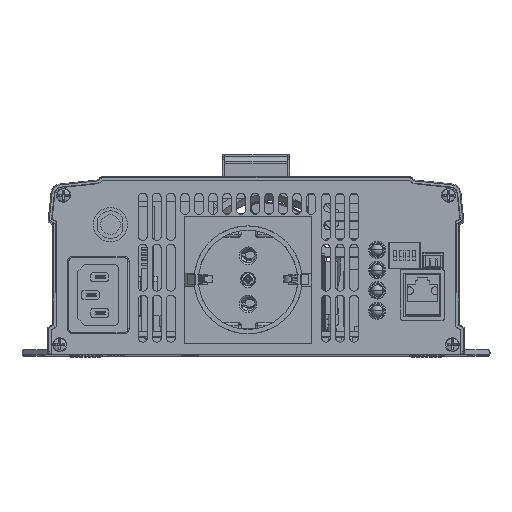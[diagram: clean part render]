
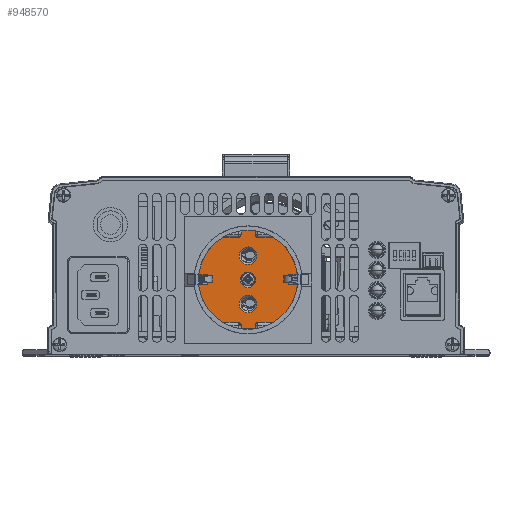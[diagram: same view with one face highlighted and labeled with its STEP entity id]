
A CAD part, top view. The second image highlights one B-rep face of the part: STEP entity #948570.
In plain terms, the highlighted planar face has unit normal (0, 0, 1).
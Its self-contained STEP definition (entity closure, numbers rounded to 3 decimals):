
#945830=CARTESIAN_POINT('',(15.95,1.975,-13.1));
#945840=VERTEX_POINT('',#945830);
#945920=CARTESIAN_POINT('',(15.95,-1.975,-13.1));
#945930=VERTEX_POINT('',#945920);
#945960=CARTESIAN_POINT('',(15.95,1.975,-13.1));
#945970=DIRECTION('',(0.,-1.,0.));
#945980=VECTOR('',#945970,1.);
#945990=LINE('',#945960,#945980);
#946000=EDGE_CURVE('',#945840,#945930,#945990,.T.);
#946120=CARTESIAN_POINT('',(0.,0.,-13.1));
#946130=DIRECTION('',(0.,0.,1.));
#946140=DIRECTION('',(1.,0.,0.));
#946150=AXIS2_PLACEMENT_3D('',#946120,#946130,#946140);
#946160=PLANE('',#946150);
#946170=CARTESIAN_POINT('',(-3.75,-16.75,-13.1));
#946180=DIRECTION('',(-1.,0.,0.));
#946190=VECTOR('',#946180,1.);
#946200=LINE('',#946170,#946190);
#946210=CARTESIAN_POINT('',(-3.75,-16.75,-13.1));
#946220=VERTEX_POINT('',#946210);
#946230=CARTESIAN_POINT('',(-9.984,-16.75,-13.1));
#946240=VERTEX_POINT('',#946230);
#946250=EDGE_CURVE('',#946220,#946240,#946200,.T.);
#946260=ORIENTED_EDGE('',*,*,#946250,.F.);
#946270=CARTESIAN_POINT('',(0.,0.,-13.1));
#946280=DIRECTION('',(0.,0.,1.));
#946290=DIRECTION('',(-0.995,-0.101,0.));
#946300=AXIS2_PLACEMENT_3D('',#946270,#946280,#946290);
#946310=CIRCLE('',#946300,19.5);
#946320=CARTESIAN_POINT('',(-19.4,-1.975,-13.1));
#946330=VERTEX_POINT('',#946320);
#946340=EDGE_CURVE('',#946330,#946240,#946310,.T.);
#946350=ORIENTED_EDGE('',*,*,#946340,.T.);
#946360=CARTESIAN_POINT('',(-19.4,-1.975,-13.1));
#946370=DIRECTION('',(1.,0.,0.));
#946380=VECTOR('',#946370,1.);
#946390=LINE('',#946360,#946380);
#946400=CARTESIAN_POINT('',(-15.95,-1.975,-13.1));
#946410=VERTEX_POINT('',#946400);
#946420=EDGE_CURVE('',#946330,#946410,#946390,.T.);
#946430=ORIENTED_EDGE('',*,*,#946420,.F.);
#946440=CARTESIAN_POINT('',(-15.95,-1.975,-13.1));
#946450=DIRECTION('',(0.,1.,0.));
#946460=VECTOR('',#946450,1.);
#946470=LINE('',#946440,#946460);
#946480=CARTESIAN_POINT('',(-15.95,1.975,-13.1));
#946490=VERTEX_POINT('',#946480);
#946500=EDGE_CURVE('',#946410,#946490,#946470,.T.);
#946510=ORIENTED_EDGE('',*,*,#946500,.F.);
#946520=CARTESIAN_POINT('',(-15.95,1.975,-13.1));
#946530=DIRECTION('',(-1.,0.,0.));
#946540=VECTOR('',#946530,1.);
#946550=LINE('',#946520,#946540);
#946560=CARTESIAN_POINT('',(-19.4,1.975,-13.1));
#946570=VERTEX_POINT('',#946560);
#946580=EDGE_CURVE('',#946490,#946570,#946550,.T.);
#946590=ORIENTED_EDGE('',*,*,#946580,.F.);
#946600=CARTESIAN_POINT('',(0.,0.,-13.1));
#946610=DIRECTION('',(0.,0.,1.));
#946620=DIRECTION('',(-0.512,0.859,0.));
#946630=AXIS2_PLACEMENT_3D('',#946600,#946610,#946620);
#946640=CIRCLE('',#946630,19.5);
#946650=CARTESIAN_POINT('',(-9.984,16.75,-13.1));
#946660=VERTEX_POINT('',#946650);
#946670=EDGE_CURVE('',#946660,#946570,#946640,.T.);
#946680=ORIENTED_EDGE('',*,*,#946670,.T.);
#946690=CARTESIAN_POINT('',(-9.984,16.75,-13.1));
#946700=DIRECTION('',(1.,0.,0.));
#946710=VECTOR('',#946700,1.);
#946720=LINE('',#946690,#946710);
#946730=CARTESIAN_POINT('',(-3.75,16.75,-13.1));
#946740=VERTEX_POINT('',#946730);
#946750=EDGE_CURVE('',#946660,#946740,#946720,.T.);
#946760=ORIENTED_EDGE('',*,*,#946750,.F.);
#946770=CARTESIAN_POINT('',(-3.75,17.75,-13.1));
#946780=DIRECTION('',(0.,0.,-1.));
#946790=DIRECTION('',(1.,0.,0.));
#946800=AXIS2_PLACEMENT_3D('',#946770,#946780,#946790);
#946810=CIRCLE('',#946800,1.);
#946820=CARTESIAN_POINT('',(-2.75,17.75,-13.1));
#946830=VERTEX_POINT('',#946820);
#946840=EDGE_CURVE('',#946830,#946740,#946810,.T.);
#946850=ORIENTED_EDGE('',*,*,#946840,.T.);
#946860=CARTESIAN_POINT('',(-2.75,17.75,-13.1));
#946870=DIRECTION('',(0.,1.,0.));
#946880=VECTOR('',#946870,1.);
#946890=LINE('',#946860,#946880);
#946900=CARTESIAN_POINT('',(-2.75,19.305,-13.1));
#946910=VERTEX_POINT('',#946900);
#946920=EDGE_CURVE('',#946830,#946910,#946890,.T.);
#946930=ORIENTED_EDGE('',*,*,#946920,.F.);
#946940=CARTESIAN_POINT('',(0.,0.,-13.1));
#946950=DIRECTION('',(0.,0.,1.));
#946960=DIRECTION('',(0.141,0.99,0.));
#946970=AXIS2_PLACEMENT_3D('',#946940,#946950,#946960);
#946980=CIRCLE('',#946970,19.5);
#946990=CARTESIAN_POINT('',(2.75,19.305,-13.1));
#947000=VERTEX_POINT('',#946990);
#947010=EDGE_CURVE('',#947000,#946910,#946980,.T.);
#947020=ORIENTED_EDGE('',*,*,#947010,.T.);
#947030=CARTESIAN_POINT('',(2.75,19.305,-13.1));
#947040=DIRECTION('',(0.,-1.,0.));
#947050=VECTOR('',#947040,1.);
#947060=LINE('',#947030,#947050);
#947070=CARTESIAN_POINT('',(2.75,17.75,-13.1));
#947080=VERTEX_POINT('',#947070);
#947090=EDGE_CURVE('',#947000,#947080,#947060,.T.);
#947100=ORIENTED_EDGE('',*,*,#947090,.F.);
#947110=CARTESIAN_POINT('',(3.75,17.75,-13.1));
#947120=DIRECTION('',(0.,0.,-1.));
#947130=DIRECTION('',(0.,-1.,0.));
#947140=AXIS2_PLACEMENT_3D('',#947110,#947120,#947130);
#947150=CIRCLE('',#947140,1.);
#947160=CARTESIAN_POINT('',(3.75,16.75,-13.1));
#947170=VERTEX_POINT('',#947160);
#947180=EDGE_CURVE('',#947170,#947080,#947150,.T.);
#947190=ORIENTED_EDGE('',*,*,#947180,.T.);
#947200=CARTESIAN_POINT('',(3.75,16.75,-13.1));
#947210=DIRECTION('',(1.,0.,0.));
#947220=VECTOR('',#947210,1.);
#947230=LINE('',#947200,#947220);
#947240=CARTESIAN_POINT('',(9.984,16.75,-13.1));
#947250=VERTEX_POINT('',#947240);
#947260=EDGE_CURVE('',#947170,#947250,#947230,.T.);
#947270=ORIENTED_EDGE('',*,*,#947260,.F.);
#947280=CARTESIAN_POINT('',(0.,0.,-13.1));
#947290=DIRECTION('',(0.,0.,1.));
#947300=DIRECTION('',(0.995,0.101,0.));
#947310=AXIS2_PLACEMENT_3D('',#947280,#947290,#947300);
#947320=CIRCLE('',#947310,19.5);
#947330=CARTESIAN_POINT('',(19.4,1.975,-13.1));
#947340=VERTEX_POINT('',#947330);
#947350=EDGE_CURVE('',#947340,#947250,#947320,.T.);
#947360=ORIENTED_EDGE('',*,*,#947350,.T.);
#947370=CARTESIAN_POINT('',(19.4,1.975,-13.1));
#947380=DIRECTION('',(-1.,0.,0.));
#947390=VECTOR('',#947380,1.);
#947400=LINE('',#947370,#947390);
#947410=EDGE_CURVE('',#947340,#945840,#947400,.T.);
#947420=ORIENTED_EDGE('',*,*,#947410,.F.);
#947430=ORIENTED_EDGE('',*,*,#946000,.F.);
#947440=CARTESIAN_POINT('',(15.95,-1.975,-13.1));
#947450=DIRECTION('',(1.,0.,0.));
#947460=VECTOR('',#947450,1.);
#947470=LINE('',#947440,#947460);
#947480=CARTESIAN_POINT('',(19.4,-1.975,-13.1));
#947490=VERTEX_POINT('',#947480);
#947500=EDGE_CURVE('',#945930,#947490,#947470,.T.);
#947510=ORIENTED_EDGE('',*,*,#947500,.F.);
#947520=CARTESIAN_POINT('',(0.,0.,-13.1));
#947530=DIRECTION('',(0.,0.,1.));
#947540=DIRECTION('',(0.512,-0.859,0.));
#947550=AXIS2_PLACEMENT_3D('',#947520,#947530,#947540);
#947560=CIRCLE('',#947550,19.5);
#947570=CARTESIAN_POINT('',(9.984,-16.75,-13.1));
#947580=VERTEX_POINT('',#947570);
#947590=EDGE_CURVE('',#947580,#947490,#947560,.T.);
#947600=ORIENTED_EDGE('',*,*,#947590,.T.);
#947610=CARTESIAN_POINT('',(9.984,-16.75,-13.1));
#947620=DIRECTION('',(-1.,0.,0.));
#947630=VECTOR('',#947620,1.);
#947640=LINE('',#947610,#947630);
#947650=CARTESIAN_POINT('',(3.75,-16.75,-13.1));
#947660=VERTEX_POINT('',#947650);
#947670=EDGE_CURVE('',#947580,#947660,#947640,.T.);
#947680=ORIENTED_EDGE('',*,*,#947670,.F.);
#947690=CARTESIAN_POINT('',(3.75,-17.75,-13.1));
#947700=DIRECTION('',(0.,0.,-1.));
#947710=DIRECTION('',(-1.,0.,0.));
#947720=AXIS2_PLACEMENT_3D('',#947690,#947700,#947710);
#947730=CIRCLE('',#947720,1.);
#947740=CARTESIAN_POINT('',(2.75,-17.75,-13.1));
#947750=VERTEX_POINT('',#947740);
#947760=EDGE_CURVE('',#947750,#947660,#947730,.T.);
#947770=ORIENTED_EDGE('',*,*,#947760,.T.);
#947780=CARTESIAN_POINT('',(2.75,-17.75,-13.1));
#947790=DIRECTION('',(0.,-1.,0.));
#947800=VECTOR('',#947790,1.);
#947810=LINE('',#947780,#947800);
#947820=CARTESIAN_POINT('',(2.75,-19.305,-13.1));
#947830=VERTEX_POINT('',#947820);
#947840=EDGE_CURVE('',#947750,#947830,#947810,.T.);
#947850=ORIENTED_EDGE('',*,*,#947840,.F.);
#947860=CARTESIAN_POINT('',(0.,0.,-13.1));
#947870=DIRECTION('',(0.,0.,1.));
#947880=DIRECTION('',(-0.141,-0.99,0.));
#947890=AXIS2_PLACEMENT_3D('',#947860,#947870,#947880);
#947900=CIRCLE('',#947890,19.5);
#947910=CARTESIAN_POINT('',(-2.75,-19.305,-13.1));
#947920=VERTEX_POINT('',#947910);
#947930=EDGE_CURVE('',#947920,#947830,#947900,.T.);
#947940=ORIENTED_EDGE('',*,*,#947930,.T.);
#947950=CARTESIAN_POINT('',(-2.75,-19.305,-13.1));
#947960=DIRECTION('',(0.,1.,0.));
#947970=VECTOR('',#947960,1.);
#947980=LINE('',#947950,#947970);
#947990=CARTESIAN_POINT('',(-2.75,-17.75,-13.1));
#948000=VERTEX_POINT('',#947990);
#948010=EDGE_CURVE('',#947920,#948000,#947980,.T.);
#948020=ORIENTED_EDGE('',*,*,#948010,.F.);
#948030=CARTESIAN_POINT('',(-3.75,-17.75,-13.1));
#948040=DIRECTION('',(0.,0.,-1.));
#948050=DIRECTION('',(0.,1.,0.));
#948060=AXIS2_PLACEMENT_3D('',#948030,#948040,#948050);
#948070=CIRCLE('',#948060,1.);
#948080=EDGE_CURVE('',#946220,#948000,#948070,.T.);
#948090=ORIENTED_EDGE('',*,*,#948080,.T.);
#948100=EDGE_LOOP('',(#948090,#948020,#947940,#947850,#947770,#947680,
#947600,#947510,#947430,#947420,#947360,#947270,#947190,#947100,#947020,
#946930,#946850,#946760,#946680,#946590,#946510,#946430,#946350,#946260)
);
#948110=FACE_OUTER_BOUND('',#948100,.T.);
#948120=CARTESIAN_POINT('',(0.,0.,-13.1));
#948130=DIRECTION('',(0.,0.,-1.));
#948140=DIRECTION('',(1.,0.,0.));
#948150=AXIS2_PLACEMENT_3D('',#948120,#948130,#948140);
#948160=CIRCLE('',#948150,3.);
#948170=CARTESIAN_POINT('',(3.,0.,-13.1));
#948180=VERTEX_POINT('',#948170);
#948190=CARTESIAN_POINT('',(-3.,0.,-13.1));
#948200=VERTEX_POINT('',#948190);
#948210=EDGE_CURVE('',#948180,#948200,#948160,.T.);
#948220=ORIENTED_EDGE('',*,*,#948210,.T.);
#948230=EDGE_CURVE('',#948200,#948180,#948160,.T.);
#948240=ORIENTED_EDGE('',*,*,#948230,.T.);
#948250=EDGE_LOOP('',(#948240,#948220));
#948260=FACE_BOUND('',#948250,.T.);
#948270=CARTESIAN_POINT('',(0.,9.5,-13.1));
#948280=DIRECTION('',(0.,0.,-1.));
#948290=DIRECTION('',(1.,0.,0.));
#948300=AXIS2_PLACEMENT_3D('',#948270,#948280,#948290);
#948310=CIRCLE('',#948300,3.45);
#948320=CARTESIAN_POINT('',(3.45,9.5,-13.1));
#948330=VERTEX_POINT('',#948320);
#948340=CARTESIAN_POINT('',(-3.45,9.5,-13.1));
#948350=VERTEX_POINT('',#948340);
#948360=EDGE_CURVE('',#948330,#948350,#948310,.T.);
#948370=ORIENTED_EDGE('',*,*,#948360,.T.);
#948380=EDGE_CURVE('',#948350,#948330,#948310,.T.);
#948390=ORIENTED_EDGE('',*,*,#948380,.T.);
#948400=EDGE_LOOP('',(#948390,#948370));
#948410=FACE_BOUND('',#948400,.T.);
#948420=CARTESIAN_POINT('',(0.,-9.5,-13.1));
#948430=DIRECTION('',(0.,0.,-1.));
#948440=DIRECTION('',(1.,0.,0.));
#948450=AXIS2_PLACEMENT_3D('',#948420,#948430,#948440);
#948460=CIRCLE('',#948450,3.45);
#948470=CARTESIAN_POINT('',(-3.45,-9.5,-13.1));
#948480=VERTEX_POINT('',#948470);
#948490=CARTESIAN_POINT('',(3.45,-9.5,-13.1));
#948500=VERTEX_POINT('',#948490);
#948510=EDGE_CURVE('',#948480,#948500,#948460,.T.);
#948520=ORIENTED_EDGE('',*,*,#948510,.T.);
#948530=EDGE_CURVE('',#948500,#948480,#948460,.T.);
#948540=ORIENTED_EDGE('',*,*,#948530,.T.);
#948550=EDGE_LOOP('',(#948540,#948520));
#948560=FACE_BOUND('',#948550,.T.);
#948570=ADVANCED_FACE('',(#948110,#948260,#948410,#948560),#946160,.T.);
